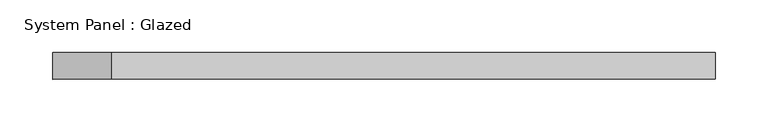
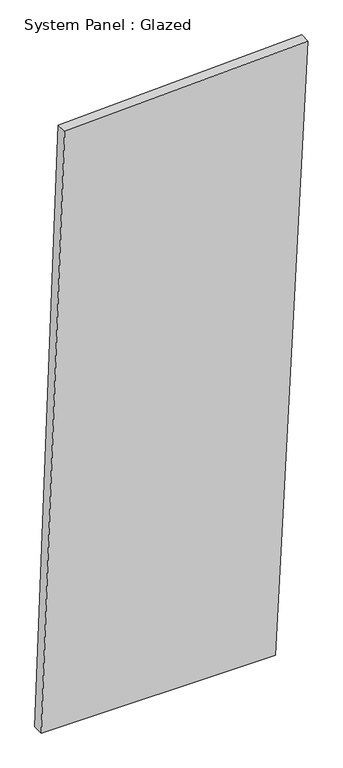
"""IFC4 building model written with IfcOpenShell, lengths in millimetres: plate geometry, System Panel : Glazed."""

import ifcopenshell
import ifcopenshell.guid

model = None  # the IFC model being written
_history = None  # IfcOwnerHistory: only IFC2X3 demands one
_inside = {}  # id of a spatial element -> (the spatial element, [elements in it])
_under = {}  # id of a project, library or spatial element -> (it, [spatial elements below it])
_declared = {}  # id of a project -> (the project, [libraries it declares])
_typed = {}  # id of a type object -> (the type object, [elements of that type])
_made_of = {}  # id of a material, layer set ... -> (it, [elements and type objects made of it])


def new_model(schema):
    """Start an empty IFC model of exactly this schema.

    Asked for "IFC4X3", IfcOpenShell would pick the latest addendum, in which some entities
    have other attributes; the version numbers below select the first issue.
    IFC2X3 requires an IfcOwnerHistory on every rooted entity: one is made here for all.
    """
    global model, _history
    if schema == "IFC4X3":
        model = ifcopenshell.file(schema_version=(4, 3, 0, 0))
    else:
        model = ifcopenshell.file(schema=schema)
    _inside.clear()
    _under.clear()
    _declared.clear()
    _typed.clear()
    _made_of.clear()
    _history = None
    if model.schema == "IFC2X3":
        org = make("IfcOrganization", Name="unknown")
        user = make(
            "IfcPersonAndOrganization",
            ThePerson=make("IfcPerson", FamilyName="unknown"),
            TheOrganization=org,
        )
        app = make(
            "IfcApplication",
            ApplicationDeveloper=org,
            Version="unknown",
            ApplicationFullName="unknown",
            ApplicationIdentifier="unknown",
        )
        _history = make(
            "IfcOwnerHistory",
            OwningUser=user,
            OwningApplication=app,
            ChangeAction="ADDED",
            CreationDate=0,
        )
    return model


def make(cls, **values):
    """One entity of the class cls with the attributes given. An attribute that is None is left unset."""
    return model.create_entity(
        cls, **{name: value for name, value in values.items() if value is not None}
    )


def rooted(cls, **values):
    """An entity with a GlobalId (a new one), such as an element, a storey or a relation."""
    return make(cls, GlobalId=ifcopenshell.guid.new(), OwnerHistory=_history, **values)


def si_unit(unit_type, name, prefix=None):
    """IfcSIUnit, for example si_unit("LENGTHUNIT", "METRE", prefix="MILLI")."""
    return make("IfcSIUnit", UnitType=unit_type, Prefix=prefix, Name=name)


def assignment(units):
    """IfcUnitAssignment: the units of a project."""
    return None if units is None else make("IfcUnitAssignment", Units=units)


def point(xyz):
    """IfcCartesianPoint."""
    return None if xyz is None else make("IfcCartesianPoint", Coordinates=xyz)


def direction(xyz):
    """IfcDirection."""
    return None if xyz is None else make("IfcDirection", DirectionRatios=xyz)


def frame(location, z_axis=None, x_axis=None):
    """IfcAxis2Placement3D, a coordinate frame: its origin and axes. An axis left out is left unset."""
    return make(
        "IfcAxis2Placement3D",
        Location=point(location),
        Axis=direction(z_axis),
        RefDirection=direction(x_axis),
    )


def origin():
    """The frame at (0, 0, 0) with its axes left unset."""
    return frame((0.0, 0.0, 0.0))


def place(relative_to, where):
    """IfcLocalPlacement: puts the frame where relative to a parent placement (None: the world)."""
    return make(
        "IfcLocalPlacement", PlacementRelTo=relative_to, RelativePlacement=where
    )


def context(
    kind, dimensions, precision=None, world=None, true_north=None, identifier=None
):
    """IfcGeometricRepresentationContext, for example the 3D "Model" context."""
    return make(
        "IfcGeometricRepresentationContext",
        ContextIdentifier=identifier,
        ContextType=kind,
        CoordinateSpaceDimension=dimensions,
        Precision=precision,
        WorldCoordinateSystem=world,
        TrueNorth=true_north,
    )


def project(units=None, contexts=None):
    """IfcProject with its units and contexts."""
    return rooted(
        "IfcProject",
        Name="project",
        RepresentationContexts=contexts,
        UnitsInContext=assignment(units),
    )


def spatial(cls, under=None, at=None, **own):
    """A site, building, storey or space (cls), placed at a placement, below another one or the project."""
    s = rooted(cls, ObjectPlacement=at, **own)
    if under is not None:
        _under.setdefault(under.id(), (under, []))[1].append(s)
    return s


def polyline(points):
    """IfcPolyline through the points."""
    return make("IfcPolyline", Points=[point(p) for p in points])


def outline(outer, holes=None, kind="AREA"):
    """IfcArbitraryClosedProfileDef: a profile drawn as a closed curve; with holes, ...WithVoids."""
    if holes is None:
        return make("IfcArbitraryClosedProfileDef", ProfileType=kind, OuterCurve=outer)
    return make(
        "IfcArbitraryProfileDefWithVoids",
        ProfileType=kind,
        OuterCurve=outer,
        InnerCurves=holes,
    )


def extrude(swept, where, along, depth):
    """IfcExtrudedAreaSolid: the profile swept, set in the frame where, extruded along a direction by depth."""
    return make(
        "IfcExtrudedAreaSolid",
        SweptArea=swept,
        Position=where,
        ExtrudedDirection=direction(along),
        Depth=depth,
    )


def shape(context_of_items, identifier, shape_type, items):
    """IfcShapeRepresentation: the items that make up one representation, for example the "Body"."""
    return make(
        "IfcShapeRepresentation",
        ContextOfItems=context_of_items,
        RepresentationIdentifier=identifier,
        RepresentationType=shape_type,
        Items=items,
    )


def source(mapping_origin, context_of_items, identifier, shape_type, items):
    """IfcRepresentationMap: a shape defined once, which mapped items show again and again."""
    return make(
        "IfcRepresentationMap",
        MappingOrigin=mapping_origin,
        MappedRepresentation=shape(context_of_items, identifier, shape_type, items),
    )


def transform(
    local_origin,
    x_axis=None,
    y_axis=None,
    z_axis=None,
    scale=None,
    scale2=None,
    scale3=None,
    uniform=True,
):
    """IfcCartesianTransformationOperator3D, or its non-uniform kind. x_axis, y_axis, z_axis: its Axis1, 2, 3."""
    if uniform:
        return make(
            "IfcCartesianTransformationOperator3D",
            Axis1=direction(x_axis),
            Axis2=direction(y_axis),
            LocalOrigin=point(local_origin),
            Scale=scale,
            Axis3=direction(z_axis),
        )
    return make(
        "IfcCartesianTransformationOperator3DnonUniform",
        Axis1=direction(x_axis),
        Axis2=direction(y_axis),
        LocalOrigin=point(local_origin),
        Scale=scale,
        Axis3=direction(z_axis),
        Scale2=scale2,
        Scale3=scale3,
    )


def mapped(mapping_source, mapping_target):
    """IfcMappedItem: shows the shape of a source again, moved by a transform."""
    return make(
        "IfcMappedItem", MappingSource=mapping_source, MappingTarget=mapping_target
    )


def made_of(thing, what):
    """Note that an element or type object is made of a material, layer set ...; save() writes the relation."""
    if what is not None:
        _made_of.setdefault(what.id(), (what, []))[1].append(thing)
    return thing


def element(
    cls,
    number,
    at=None,
    inside=None,
    cuts=None,
    type_object=None,
    material=None,
    context=None,
    identifier="Body",
    shape_type=None,
    held_by="IfcProductDefinitionShape",
    body=None,
    shapes=None,
    **own,
):
    """One element of the class cls, such as IfcWall. Its Tag is "e" and its number.

    at: its placement. inside: the storey or other place that contains it. cuts: it is an
    opening in that element (IfcRelVoidsElement). A single representation is given by context,
    identifier, shape_type and body (its items); several are given by shapes. held_by: the class
    of the entity that holds the representations. save() writes the other relations.
    """
    e = rooted(cls, Tag="e%d" % number, ObjectPlacement=at, **own)
    if body is not None:
        shapes = [shape(context, identifier, shape_type, body)]
    if shapes is not None:
        e.Representation = make(held_by, Representations=shapes)
    if inside is not None:
        _inside.setdefault(inside.id(), (inside, []))[1].append(e)
    if cuts is not None:
        rooted(
            "IfcRelVoidsElement", RelatingBuildingElement=cuts, RelatedOpeningElement=e
        )
    if type_object is not None:
        _typed.setdefault(type_object.id(), (type_object, []))[1].append(e)
    return made_of(e, material)


def aggregate(whole, parts):
    """IfcRelAggregates: a whole, such as a stair, and the parts it consists of."""
    return rooted("IfcRelAggregates", RelatingObject=whole, RelatedObjects=parts)


def save(model, path):
    """Write the relations noted so far, then the file.

    IfcRelAggregates (storeys below a building ...), IfcRelContainedInSpatialStructure (elements
    in a storey), IfcRelDefinesByType, IfcRelAssociatesMaterial and IfcRelDeclares: one each for
    every whole, place, type object, material and project.
    """
    for whole, parts in _under.values():
        aggregate(whole, parts)
    for where, things in _inside.values():
        rooted(
            "IfcRelContainedInSpatialStructure",
            RelatedElements=things,
            RelatingStructure=where,
        )
    for kind, things in _typed.values():
        rooted("IfcRelDefinesByType", RelatedObjects=things, RelatingType=kind)
    for what, things in _made_of.values():
        rooted("IfcRelAssociatesMaterial", RelatedObjects=things, RelatingMaterial=what)
    for by, libraries in _declared.values():
        rooted("IfcRelDeclares", RelatingContext=by, RelatedDefinitions=libraries)
    model.write(path)


def system_panel_glazed_7fcf35bf(model_context):
    return source(origin(), model_context, "Body", "SweptSolid", [
        extrude(outline(polyline([(0.0, -314.4278137), (0.0, 238.1193057), (1501.4863613, 314.4278137), (1477.90739, -259.03108), (0.0, -314.4278137)])), frame((0.0, -44.45, 0.0), z_axis=(0.0, 1.0, 0.0), x_axis=(0.0, 0.0, 1.0)), (0.0, 0.0, 1.0), 25.4),
    ])


if __name__ == "__main__":
    model = new_model("IFC4")
    model_context = context("Model", 3, world=origin())
    ifc_project = project(units=[si_unit("LENGTHUNIT", "METRE", prefix="MILLI")], contexts=[model_context])
    site = spatial("IfcSite", under=ifc_project)
    building = spatial("IfcBuilding", under=site)
    placement = place(None, origin())
    system_panel_glazed_shape = system_panel_glazed_7fcf35bf(model_context)
    element("IfcPlate", 1, ObjectType="System Panel : Glazed", at=placement, inside=building, context=model_context, shape_type="MappedRepresentation", body=[
        mapped(system_panel_glazed_shape, transform((0.0, 0.0, 0.0), x_axis=(1.0, 0.0, 0.0), y_axis=(0.0, 1.0, 0.0), z_axis=(0.0, 0.0, 1.0))),
    ])
    save(model, "model.ifc")
